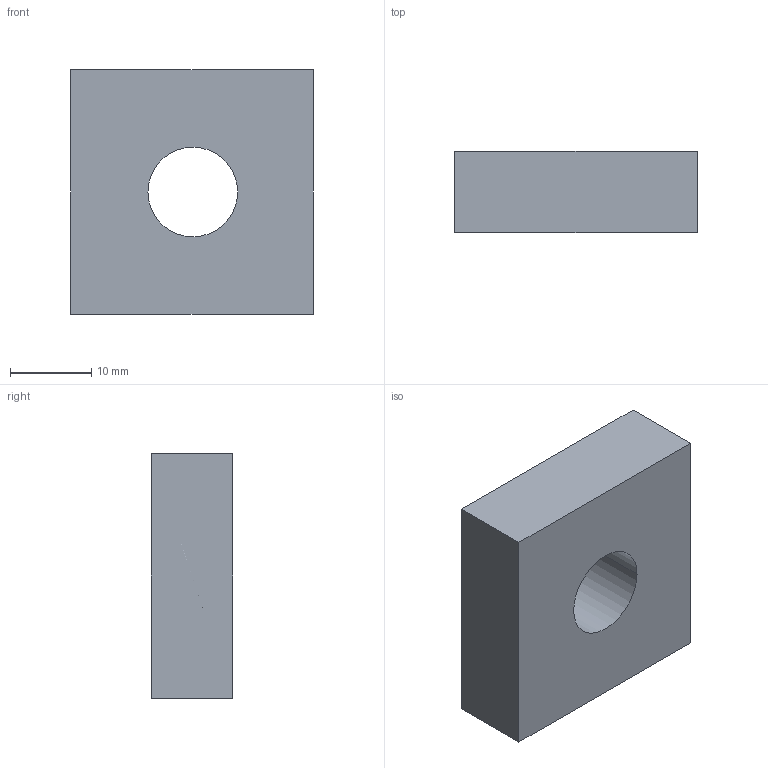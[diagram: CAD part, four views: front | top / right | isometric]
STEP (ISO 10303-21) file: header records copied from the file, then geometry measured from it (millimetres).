
FILE_DESCRIPTION((''),'2;1');
FILE_NAME('U6_BASE_BUSBAR','2016-12-07T',('HHI'),(''),'PRO/ENGINEER BY PARAMETRIC TECHNOLOGY CORPORATION, 2012453','PRO/ENGINEER BY PARAMETRIC TECHNOLOGY CORPORATION, 2012453','');
FILE_SCHEMA(('CONFIG_CONTROL_DESIGN'));
Length unit declared in the file: millimetre
Products named in the file (1): U6_BASE_BUSBAR
Bounding box: 29.8 x 10 x 30 mm (x, y, z)
Volume: 7989.7 mm3; surface area: 3139.5 mm2
Topology: 1 solids, 1 shells, 8 faces, 18 edges, 12 vertices
Faces by surface type: plane 6, cylinder 2
Entity records: 268 total; most frequent: CARTESIAN_POINT 38, DIRECTION 38, ORIENTED_EDGE 36, EDGE_CURVE 18, VECTOR 14, LINE 14, AXIS2_PLACEMENT_3D 12, VERTEX_POINT 12
